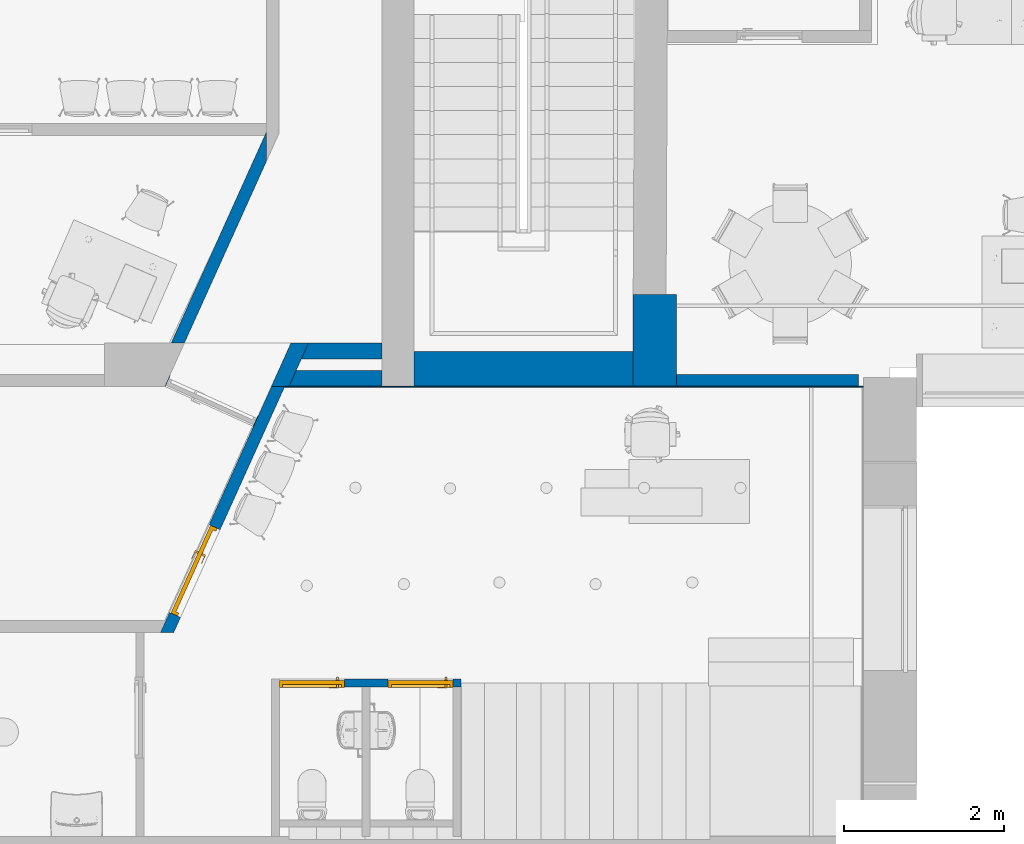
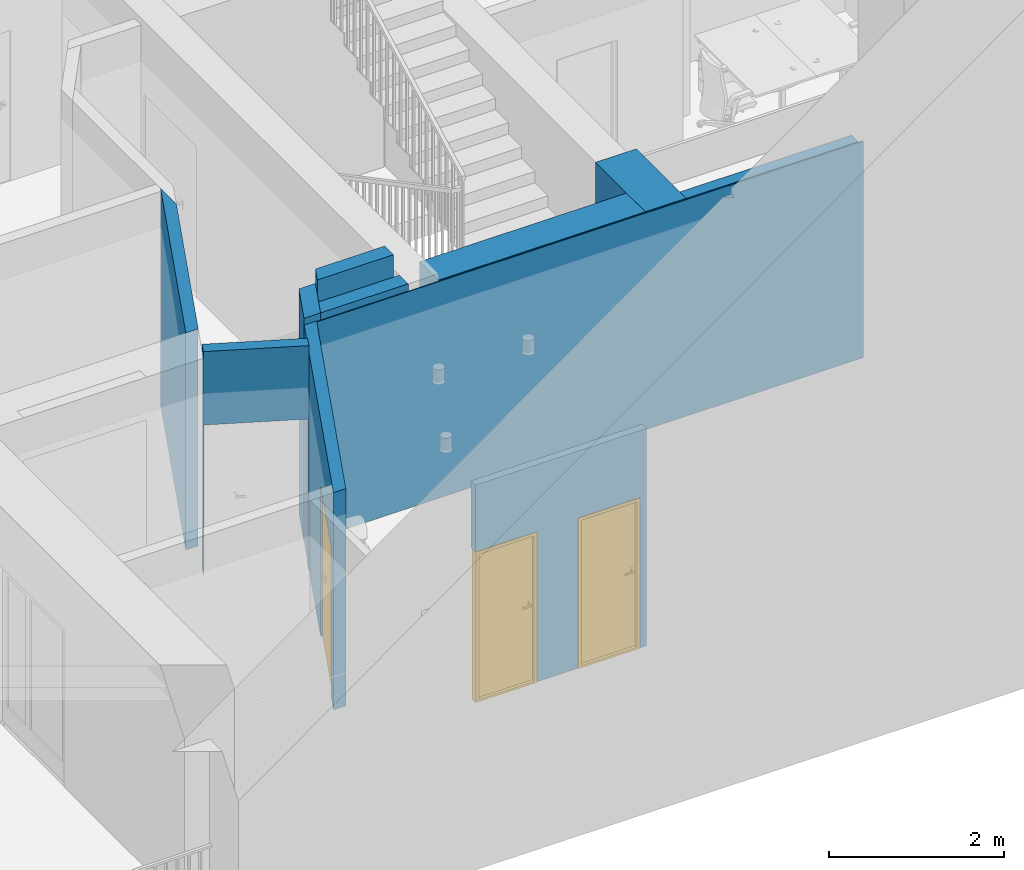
# One storey, part 3 of 25: 11 walls, 3 doors, 4 openings.
"""IFC2X3 building model written with IfcOpenShell, lengths in millimetres."""

from ifc_helpers import new_model, entity, si_unit, converted_unit, derived_unit, direction, frame, frame_2d, origin, place, context, subcontext, project, spatial, polyline, rectangle, outline, extrude, clip, bounded_halfspace, faceted_brep, source, transform, mapped, material, material_list, layer, layer_set, layer_usage, type_object, type_shapes, element, fill, save


model = new_model("IFC2X3")

# Units and contexts
model_context = context("Model", 3, precision=0.01, world=origin(), true_north=direction((6.12303176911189e-17, 1.0)))
context_of_model = context(None, 3, precision=0.01, world=origin(), true_north=direction((6.12303176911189e-17, 1.0)))
body_context = subcontext(model_context, "Body", "Model", "MODEL_VIEW")
ifc_project = project(units=[si_unit("LENGTHUNIT", "METRE", prefix="MILLI"), si_unit("AREAUNIT", "SQUARE_METRE"), si_unit("VOLUMEUNIT", "CUBIC_METRE"), converted_unit("PLANEANGLEUNIT", "DEGREE", entity("IfcRatioMeasure", 0.0174532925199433), si_unit("PLANEANGLEUNIT", "RADIAN"), dimensions=[0, 0, 0, 0, 0, 0, 0]), si_unit("MASSUNIT", "GRAM", prefix="KILO"), derived_unit("MASSDENSITYUNIT", [(si_unit("MASSUNIT", "GRAM", prefix="KILO"), 1), (si_unit("LENGTHUNIT", "METRE"), -3)]), si_unit("TIMEUNIT", "SECOND"), si_unit("FREQUENCYUNIT", "HERTZ"), si_unit("THERMODYNAMICTEMPERATUREUNIT", "DEGREE_CELSIUS"), derived_unit("THERMALTRANSMITTANCEUNIT", [(si_unit("MASSUNIT", "GRAM", prefix="KILO"), 1), (si_unit("THERMODYNAMICTEMPERATUREUNIT", "KELVIN"), -1), (si_unit("TIMEUNIT", "SECOND"), -3)]), derived_unit("VOLUMETRICFLOWRATEUNIT", [(si_unit("LENGTHUNIT", "METRE"), 3), (si_unit("TIMEUNIT", "SECOND"), -1)]), si_unit("ELECTRICCURRENTUNIT", "AMPERE"), si_unit("ELECTRICVOLTAGEUNIT", "VOLT"), si_unit("POWERUNIT", "WATT"), si_unit("FORCEUNIT", "NEWTON", prefix="KILO"), si_unit("ILLUMINANCEUNIT", "LUX"), si_unit("LUMINOUSFLUXUNIT", "LUMEN"), si_unit("LUMINOUSINTENSITYUNIT", "CANDELA"), derived_unit("USERDEFINED", [(si_unit("MASSUNIT", "GRAM", prefix="KILO"), -1), (si_unit("LENGTHUNIT", "METRE"), -2), (si_unit("TIMEUNIT", "SECOND"), 3), (si_unit("LUMINOUSFLUXUNIT", "LUMEN"), 1)]), derived_unit("LINEARVELOCITYUNIT", [(si_unit("LENGTHUNIT", "METRE"), 1), (si_unit("TIMEUNIT", "SECOND"), -1)]), si_unit("PRESSUREUNIT", "PASCAL"), derived_unit("USERDEFINED", [(si_unit("LENGTHUNIT", "METRE"), -2), (si_unit("MASSUNIT", "GRAM", prefix="KILO"), 1), (si_unit("TIMEUNIT", "SECOND"), -2)])], contexts=[model_context, context_of_model])

# Site, building, storey
site_placement = place(None, frame((121442.264707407, 135347.995453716, -1800.0)))
site = spatial("IfcSite", under=ifc_project, at=site_placement, Name="Surface", CompositionType="ELEMENT")
building_placement = place(site_placement, origin())
building = spatial("IfcBuilding", under=site, at=building_placement, CompositionType="ELEMENT")
storey_placement = place(building_placement, frame((0.0, 0.0, 1800.0)))
storey = spatial("IfcBuildingStorey", under=building, at=storey_placement, Name="1 korrus", CompositionType="ELEMENT", Elevation=1800.00000000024)

# Walls
ifc_material_1 = material(Name="__Betoonelement")
ifc_layer_1 = layer(ifc_material_1, 200.0)
ifc_layer_set_1 = layer_set([ifc_layer_1], Name="Basic Wall:20_Betoon")
ifc_layer_usage_1 = layer_usage(ifc_layer_set_1, "AXIS2", "POSITIVE", -100.0)
wall_type_1 = type_object("IfcWallType", Name="Basic Wall:20_Betoon", PredefinedType="STANDARD", material=ifc_layer_set_1)
wall_1_placement = place(storey_placement, frame((-109693.017140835, -127100.934130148, 0.0), z_axis=(0.0, 0.0, 1.0), x_axis=(-1.0, 0.0, 0.0)))
element("IfcWallStandardCase", 1, at=wall_1_placement, inside=storey, type_object=wall_type_1, material=ifc_layer_usage_1, Name="Basic Wall:20_Betoon", ObjectType="Basic Wall:20_Betoon:397", context=body_context, shape_type="SweptSolid", body=[
    extrude(outline(polyline([(913.958276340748, -100.0), (1004.2397972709, 100.0), (0.0, 100.0), (0.0, -100.0), (913.958276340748, -100.0)])), origin(), (0.0, 0.0, 1.0), 3325.0),
])
ifc_layer_usage_2 = layer_usage(ifc_layer_set_1, "AXIS2", "POSITIVE", -100.0)
wall_2_placement = place(storey_placement, frame((-110698.119494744, -126959.791000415, 0.0), z_axis=(0.0, 0.0, 1.0), x_axis=(-0.411431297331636, -0.911440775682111, 0.0)))
element("IfcWallStandardCase", 2, at=wall_2_placement, inside=storey, type_object=wall_type_1, material=ifc_layer_usage_2, Name="Basic Wall:20_Betoon", ObjectType="Basic Wall:20_Betoon:397", context=body_context, shape_type="SweptSolid", body=[
    extrude(outline(polyline([(682.65444600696, -100.0), (592.372925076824, 100.0), (372.940126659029, 100.0), (219.432798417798, 100.0), (0.0, 100.0), (90.281520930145, -100.0), (682.65444600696, -100.0)])), origin(), (0.0, 0.0, 1.0), 3125.0),
])
ifc_layer_usage_3 = layer_usage(ifc_layer_set_1, "AXIS2", "POSITIVE", -100.0)
wall_3_placement = place(storey_placement, frame((-110850.696178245, -127440.846968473, 0.0)))
element("IfcWallStandardCase", 3, at=wall_3_placement, inside=storey, type_object=wall_type_1, material=ifc_layer_usage_3, Name="Basic Wall:20_Betoon", ObjectType="Basic Wall:20_Betoon:397", context=body_context, shape_type="SweptSolid", body=[
    extrude(outline(polyline([(1157.67903740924, -100.0), (1157.67903740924, -95.1177261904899), (1157.67903740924, 100.0), (90.2815209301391, 100.0), (0.0, -100.0), (1157.67903740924, -100.0)])), origin(), (0.0, 0.0, 1.0), 3125.0),
])
ifc_layer_2 = layer(ifc_material_1, 430.0)
ifc_layer_set_2 = layer_set([ifc_layer_2], Name="Basic Wall:43_Betoon 2")
ifc_layer_usage_4 = layer_usage(ifc_layer_set_2, "AXIS2", "POSITIVE", -215.0)
wall_type_2 = type_object("IfcWallType", Name="Basic Wall:43_Betoon 2", PredefinedType="STANDARD", material=ifc_layer_set_2)
wall_4_placement = place(storey_placement, frame((-109293.147985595, -127321.208007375, 0.0), z_axis=(0.0, 0.0, 1.0), x_axis=(0.999999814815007, -0.00060858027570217, 0.0)))
element("IfcWallStandardCase", 4, at=wall_4_placement, inside=storey, type_object=wall_type_2, material=ifc_layer_usage_4, Name="Basic Wall:43_Betoon 2", ObjectType="Basic Wall:43_Betoon 2", context=body_context, shape_type="Clipping", body=[
    clip(extrude(outline(polyline([(2732.49030172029, -215.0), (2732.22861215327, 215.0), (0.0, 215.0), (0.261689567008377, -215.0), (2732.49030172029, -215.0)])), origin(), (0.0, 0.0, 1.0), 3032.0), bounded_halfspace(frame((0.261689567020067, -215.0, 3032.0), z_axis=(0.0, 0.0, -1.0), x_axis=(0.00060858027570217, -0.999999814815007, 0.0)), True, frame((0.261689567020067, -215.0, 3032.0)), polyline([(0.0, 0.0), (2732.22861215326, 0.0), (2732.07098153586, 259.013633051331), (-0.173073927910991, 284.389591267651), (-0.0361366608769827, 59.3786154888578), (0.0, 0.0)]))),
])
ifc_layer_3 = layer(ifc_material_1, 540.0)
ifc_layer_set_3 = layer_set([ifc_layer_3], Name="Basic Wall:54_Betoon 2")
ifc_layer_usage_5 = layer_usage(ifc_layer_set_3, "AXIS2", "POSITIVE", -270.0)
wall_type_3 = type_object("IfcWallType", Name="Basic Wall:54_Betoon 2", PredefinedType="STANDARD", material=ifc_layer_set_3)
wall_5_placement = place(storey_placement, frame((-106290.78903465, -127538.199540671, 0.0), z_axis=(0.0, 0.0, 1.0), x_axis=(0.0, 1.0, 0.0)))
element("IfcWallStandardCase", 5, at=wall_5_placement, inside=storey, type_object=wall_type_3, material=ifc_layer_usage_5, Name="Basic Wall:54_Betoon 2", ObjectType="Basic Wall:54_Betoon 2", context=body_context, shape_type="Clipping", body=[
    clip(extrude(outline(polyline([(1139.79142627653, -270.0), (1139.79142627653, 270.0), (430.328713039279, 270.0), (0.328633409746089, 270.0), (0.0, -270.0), (1139.79142627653, -270.0)])), origin(), (0.0, 0.0, 1.0), 3032.0), bounded_halfspace(frame((0.0, -270.0, 3032.0), z_axis=(0.0, 0.0, -1.0), x_axis=(-1.0, 0.0, 0.0)), True, frame((0.0, -270.0, 3032.0)), polyline([(0.0, 0.0), (1139.79142627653, 0.0), (1139.79142627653, 435.746439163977), (258.467599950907, 451.611296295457), (0.277670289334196, 456.259016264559), (0.0, 0.0)]))),
])
ifc_material_2 = material(Name="Plaster")
ifc_layer_4 = layer(ifc_material_2, 10.0)
ifc_material_3 = material(Name="EST. Müüritis. Väikeplokk. Kergkruusplokk")
ifc_layer_5 = layer(ifc_material_3, 130.0)
ifc_layer_6 = layer(ifc_material_2, 10.0)
ifc_layer_set_4 = layer_set([ifc_layer_4, ifc_layer_5, ifc_layer_6], Name="Basic Wall:15_FIBO")
ifc_layer_usage_6 = layer_usage(ifc_layer_set_4, "AXIS2", "NEGATIVE", 75.0)
wall_type_4 = type_object("IfcWallType", Name="Basic Wall:15_FIBO", PredefinedType="STANDARD", material=ifc_layer_set_4)
wall_6_placement = place(storey_placement, frame((-111059.85882318, -124392.833389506, 0.0), z_axis=(0.0, 0.0, 1.0), x_axis=(-0.411431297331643, -0.911440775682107, 0.0)))
element("IfcWallStandardCase", 6, at=wall_6_placement, inside=storey, type_object=wall_type_4, material=ifc_layer_usage_6, Name="Basic Wall:15_FIBO", ObjectType="Basic Wall:15_FIBO", context=body_context, shape_type="Clipping", body=[
    clip(extrude(outline(polyline([(2895.78547556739, -75.0), (2828.07433486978, 75.0), (332.293914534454, 75.0), (0.0, -75.0), (57.9220545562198, -75.0), (2895.78547556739, -75.0)])), origin(), (0.0, 0.0, 1.0), 3032.0), bounded_halfspace(frame((0.0, -75.0, 3032.0), z_axis=(0.0, 0.0, -1.0), x_axis=(0.911440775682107, 0.411431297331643, 0.0)), True, frame((0.0, -75.0, 3032.0)), polyline([(0.0, 0.0), (57.9220545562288, 0.0), (2895.7854755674, 0.0), (2828.07433486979, 150.0), (332.293914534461, 150.0), (0.0, 0.0)]))),
])
ifc_layer_usage_7 = layer_usage(ifc_layer_set_4, "AXIS2", "POSITIVE", -75.0)
wall_7_placement = place(storey_placement, frame((-106020.78903465, -127467.459818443, 0.0)))
element("IfcWallStandardCase", 7, at=wall_7_placement, inside=storey, type_object=wall_type_4, material=ifc_layer_usage_7, Name="Basic Wall:15_FIBO", ObjectType="Basic Wall:15_FIBO", context=body_context, shape_type="Clipping", body=[
    clip(extrude(rectangle(XDim=2270.0, YDim=150.000000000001, at=frame_2d((1135.0, 0.0), x_axis=(-1.0, 0.0))), origin(), (0.0, 0.0, 1.0), 3032.0), bounded_halfspace(frame((0.0, -75.0, 3032.0), z_axis=(0.0, 0.0, -1.0), x_axis=(0.0, -1.0, 0.0)), True, frame((0.0, -75.0, 3032.0)), polyline([(0.0, 0.0), (2270.0, 0.0), (2270.0, 150.0), (0.0, 150.0), (0.0, 0.0)]))),
])

# Wall, opening, door
ifc_layer_usage_8 = layer_usage(ifc_layer_set_4, "AXIS2", "POSITIVE", -75.0)
wall_8_placement = place(storey_placement, frame((-110971.564053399, -127509.989621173, 0.0), z_axis=(0.0, 0.0, 1.0), x_axis=(-0.411431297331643, -0.911440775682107, 0.0)))
wall_8 = element("IfcWallStandardCase", 8, at=wall_8_placement, inside=storey, type_object=wall_type_4, material=ifc_layer_usage_8, Name="Basic Wall:15_FIBO", ObjectType="Basic Wall:15_FIBO", context=body_context, shape_type="Clipping", body=[
    clip(extrude(outline(polyline([(67.7111406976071, -75.0), (3266.62178826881, -75.0), (3431.19638708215, -75.0), (3363.48524638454, 75.0), (0.0, 75.0), (67.7111406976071, -75.0)])), origin(), (0.0, 0.0, 1.0), 3032.0), bounded_halfspace(frame((67.711140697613, -75.0, 3032.0), z_axis=(0.0, 0.0, -1.0), x_axis=(0.911440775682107, 0.411431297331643, 0.0)), True, frame((67.711140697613, -75.0, 3032.0)), polyline([(0.0, 0.0), (3198.9106475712, 0.0), (3363.48524638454, 0.0), (3295.77410568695, 150.0), (-67.7111406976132, 150.0), (0.0, 0.0)]))),
])
opening_1_placement = place(wall_8_placement, frame((3159.58659514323, 75.0, 0.0)))
opening_1 = element("IfcOpeningElement", 9, at=opening_1_placement, cuts=wall_8, Name="sma_D02:1200 x 2100mm SU-11 Tuletokke:1", ObjectType="Opening", context=body_context, shape_type="SweptSolid", body=[
    extrude(rectangle(XDim=2099.99999999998, YDim=1200.0, at=frame_2d((1049.99999999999, 600.0), x_axis=(1.0, 0.0))), frame((0.0, 0.0, 0.0), z_axis=(0.0, -1.0, 0.0), x_axis=(0.0, 0.0, 1.0)), (0.0, 0.0, 1.0), 150.0),
])
ifc_material_4 = material(Name="Metal - Aluminium")
door_style_1 = type_object("IfcDoorStyle", Name="1200 x 2100mm SU-11 Tuletokke", ConstructionType="NOTDEFINED", OperationType="NOTDEFINED", ParameterTakesPrecedence=False, Sizeable=False, material=ifc_material_4)
shared_shape_1 = source(origin(), body_context, "Body", "Brep", [
    faceted_brep([(745.260051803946, 40.0, 1100.0), (650.260051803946, 40.0, 1100.0), (650.260051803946, 35.0, 1100.0), (770.260051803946, 35.0, 1100.0), (770.260051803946, 78.0, 1100.0), (745.260051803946, 78.0, 1100.0), (745.260051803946, 40.0, 1075.0), (745.260051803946, 78.0, 1075.0), (770.260051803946, 78.0, 1075.0), (770.260051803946, 35.0, 1075.0), (650.260051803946, 35.0, 1075.0), (650.260051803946, 40.0, 1075.0)], [[[0, 1, 2, 3, 4, 5]], [[6, 7, 8, 9, 10, 11]], [[5, 7, 6, 0]], [[4, 8, 7, 5]], [[3, 9, 8, 4]], [[2, 10, 9, 3]], [[1, 11, 10, 2]], [[0, 6, 11, 1]]]),
    faceted_brep([(732.760051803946, 78.0, 1125.0), (782.760051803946, 78.0, 1125.0), (782.760051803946, 80.0, 1125.0), (732.760051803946, 80.0, 1125.0), (732.760051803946, 78.0, 1005.0), (732.760051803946, 80.0, 1005.0), (782.760051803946, 80.0, 1005.0), (782.760051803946, 78.0, 1005.0)], [[[0, 1, 2, 3]], [[4, 5, 6, 7]], [[3, 5, 4, 0]], [[2, 6, 5, 3]], [[1, 7, 6, 2]], [[0, 4, 7, 1]]]),
    faceted_brep([(745.260051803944, 170.432966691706, 1100.0), (745.260051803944, 132.432966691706, 1100.0), (770.260051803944, 132.432966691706, 1100.0), (770.260051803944, 175.432966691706, 1100.0), (650.260051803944, 175.432966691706, 1100.0), (650.260051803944, 170.432966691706, 1100.0), (745.260051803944, 170.432966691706, 1075.0), (650.260051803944, 170.432966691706, 1075.0), (650.260051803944, 175.432966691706, 1075.0), (770.260051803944, 175.432966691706, 1075.0), (770.260051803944, 132.432966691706, 1075.0), (745.260051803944, 132.432966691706, 1075.0)], [[[0, 1, 2, 3, 4, 5]], [[6, 7, 8, 9, 10, 11]], [[1, 0, 6, 11]], [[2, 1, 11, 10]], [[3, 2, 10, 9]], [[4, 3, 9, 8]], [[5, 4, 8, 7]], [[0, 5, 7, 6]]]),
    faceted_brep([(732.760051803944, 132.432966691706, 1125.0), (732.760051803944, 130.432966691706, 1125.0), (782.760051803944, 130.432966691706, 1125.0), (782.760051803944, 132.432966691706, 1125.0), (732.760051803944, 132.432966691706, 1005.0), (782.760051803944, 132.432966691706, 1005.0), (782.760051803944, 130.432966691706, 1005.0), (732.760051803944, 130.432966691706, 1005.0)], [[[0, 1, 2, 3]], [[4, 5, 6, 7]], [[1, 0, 4, 7]], [[2, 1, 7, 6]], [[3, 2, 6, 5]], [[0, 3, 5, 4]]]),
    faceted_brep([(-67.2399481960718, 40.4329666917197, 0.0), (-67.2399481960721, 130.43296669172, 0.0), (-42.2399481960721, 130.43296669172, 0.0), (-42.239948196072, 80.4329666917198, 0.0), (-27.2399481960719, 80.4329666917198, 0.0), (-27.2399481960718, 40.4329666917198, 0.0), (-27.2399481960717, 40.4329666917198, 2060.0), (1092.76005180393, 40.4329666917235, 2060.0), (1092.76005180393, 40.4329666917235, 0.0), (1132.76005180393, 40.4329666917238, 0.0), (1132.76005180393, 40.4329666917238, 2100.0), (-67.2399481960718, 40.4329666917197, 2100.0), (-27.2399481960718, 80.4329666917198, 2060.0), (-42.2399481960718, 80.4329666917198, 2075.0), (1107.76005180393, 80.4329666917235, 2075.0), (1107.76005180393, 80.4329666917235, 0.0), (1092.76005180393, 80.4329666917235, 0.0), (1092.76005180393, 80.4329666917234, 2060.0), (-42.239948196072, 130.43296669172, 2075.0), (-67.2399481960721, 130.43296669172, 2100.0), (1132.76005180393, 130.432966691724, 2100.0), (1132.76005180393, 130.432966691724, 0.0), (1107.76005180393, 130.432966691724, 0.0), (1107.76005180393, 130.432966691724, 2075.0)], [[[0, 1, 2, 3, 4, 5]], [[5, 6, 7, 8, 9, 10, 11, 0]], [[4, 12, 6, 5]], [[3, 13, 14, 15, 16, 17, 12, 4]], [[2, 18, 13, 3]], [[1, 19, 20, 21, 22, 23, 18, 2]], [[0, 11, 19, 1]], [[10, 9, 21, 20]], [[9, 8, 16, 15, 22, 21]], [[17, 16, 8, 7]], [[23, 22, 15, 14]], [[12, 17, 7, 6]], [[18, 23, 14, 13]], [[11, 10, 20, 19]]]),
    faceted_brep([(1107.76005180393, 80.4329666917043, 20.0), (1107.76005180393, 80.4329666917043, 2075.0), (832.760051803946, 80.4329666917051, 2075.0), (832.760051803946, 80.4329666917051, 20.0), (1107.76005180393, 130.432966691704, 20.0), (832.760051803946, 130.432966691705, 20.0), (832.760051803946, 130.432966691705, 2075.0), (1107.76005180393, 130.432966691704, 2075.0)], [[[0, 1, 2, 3]], [[4, 5, 6, 7]], [[3, 5, 4, 0]], [[2, 6, 5, 3]], [[1, 7, 6, 2]], [[0, 4, 7, 1]]]),
    faceted_brep([(832.760051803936, 80.4329666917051, 2075.0), (-42.2399481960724, 80.4329666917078, 2075.0), (-42.2399481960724, 80.4329666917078, 20.0), (832.760051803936, 80.4329666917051, 20.0), (832.760051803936, 130.432966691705, 2075.0), (832.760051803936, 130.432966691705, 20.0), (-42.2399481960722, 130.432966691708, 20.0), (-42.2399481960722, 130.432966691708, 2075.0)], [[[0, 1, 2, 3]], [[4, 5, 6, 7]], [[3, 5, 4, 0]], [[2, 6, 5, 3]], [[1, 7, 6, 2]], [[0, 4, 7, 1]]]),
])
type_shapes(door_style_1, [shared_shape_1])
door_1_placement = place(opening_1_placement, frame((-67.2399481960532, 0.0, 0.0), z_axis=(0.0, 0.0, 1.0), x_axis=(-1.0, 0.0, 0.0)))
door_1 = element("IfcDoor", 10, at=door_1_placement, inside=storey, type_object=door_style_1, material=ifc_material_4, Name="sma_D02:1200 x 2100mm SU-11 Tuletokke", ObjectType="1200 x 2100mm SU-11 Tuletokke", OverallHeight=2099.99999999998, OverallWidth=1200.0, context=body_context, shape_type="MappedRepresentation", body=[
    mapped(shared_shape_1, transform((0.0, 0.0, 0.0), scale=1.0)),
])
fill(opening_1, door_1)

# Wall, opening
ifc_layer_usage_9 = layer_usage(ifc_layer_set_4, "AXIS2", "POSITIVE", -75.0)
wall_9_placement = place(storey_placement, frame((-112367.790791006, -127472.576071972, 0.0), z_axis=(0.0, 0.0, 1.0), x_axis=(0.911440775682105, -0.411431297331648, 0.0)))
wall_9 = element("IfcWallStandardCase", 11, at=wall_9_placement, inside=storey, type_object=wall_type_4, material=ifc_layer_usage_9, Name="Basic Wall:15_FIBO", ObjectType="Basic Wall:15_FIBO", context=body_context, shape_type="SweptSolid", body=[
    extrude(rectangle(XDim=1212.97108583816, YDim=149.999999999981, at=frame_2d((606.485542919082, 4.2632564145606e-14), x_axis=(-1.0, 0.0))), origin(), (0.0, 0.0, 1.0), 3125.0),
])
opening_2_placement = place(wall_9_placement, frame((1206.48554291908, 75.0, 0.0)))
element("IfcOpeningElement", 12, at=opening_2_placement, cuts=wall_9, Name="sma_D02:1200 x 2100mm SU-7 Liigendiga siseuks:1", ObjectType="Opening", context=body_context, shape_type="SweptSolid", body=[
    extrude(rectangle(XDim=2099.99999999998, YDim=1200.0, at=frame_2d((1049.99999999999, 600.0), x_axis=(1.0, 0.0))), frame((0.0, 0.0, 0.0), z_axis=(0.0, -1.0, 0.0), x_axis=(0.0, 0.0, 1.0)), (0.0, 0.0, 1.0), 150.0),
])

# Wall, openings, doors
ifc_layer_7 = layer(ifc_material_2, 5.0)
ifc_material_5 = material(Name="CMU, Lightweight")
ifc_layer_8 = layer(ifc_material_5, 90.0)
ifc_layer_9 = layer(ifc_material_2, 5.0)
ifc_layer_set_5 = layer_set([ifc_layer_7, ifc_layer_8, ifc_layer_9], Name="Basic Wall:10_FIBO + 2xKROHV")
ifc_layer_usage_10 = layer_usage(ifc_layer_set_5, "AXIS2", "NEGATIVE", 50.0)
wall_type_5 = type_object("IfcWallType", Name="Basic Wall:10_FIBO + 2xKROHV", PredefinedType="STANDARD", material=ifc_layer_set_5)
wall_10_placement = place(storey_placement, frame((-110969.001080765, -131235.927165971, 0.0)))
wall_10 = element("IfcWallStandardCase", 13, at=wall_10_placement, inside=storey, type_object=wall_type_5, material=ifc_layer_usage_10, Name="Basic Wall:10_FIBO + 2xKROHV", ObjectType="Basic Wall:10_FIBO + 2xKROHV", context=body_context, shape_type="Clipping", body=[
    clip(extrude(rectangle(XDim=2260.0131168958, YDim=100.000000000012, at=frame_2d((1130.0065584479, 0.0), x_axis=(-1.0, 0.0))), origin(), (0.0, 0.0, 1.0), 3032.0), bounded_halfspace(frame((2260.0131168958, -48.1727669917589, 3032.0), z_axis=(0.0, 0.0, -1.0), x_axis=(0.0, -1.0, 0.0)), True, frame((2260.0131168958, -48.1727669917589, 3032.0)), polyline([(0.0, 0.0), (0.0, 98.1727669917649), (-2260.0131168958, 98.1727669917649), (-2260.0131168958, 0.0), (-1792.12382775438, 0.0), (0.0, 0.0)]))),
])
opening_3_placement = place(wall_10_placement, frame((1355.01311689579, -50.0, 0.0)))
opening_3 = element("IfcOpeningElement", 14, at=opening_3_placement, cuts=wall_10, Name="sma_D01:810 x 2110_SU-04 Siseuks:1", ObjectType="Opening", context=body_context, shape_type="SweptSolid", body=[
    extrude(rectangle(XDim=2099.99999999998, YDim=810.0, at=frame_2d((1049.99999999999, 405.000000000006), x_axis=(1.0, 0.0))), frame((0.0, 0.0, 0.0), z_axis=(0.0, 1.0, 0.0), x_axis=(0.0, 0.0, 1.0)), (0.0, 0.0, 1.0), 100.0),
])
opening_4_placement = place(wall_10_placement, frame((0.0, -50.0, 0.0)))
opening_4 = element("IfcOpeningElement", 15, at=opening_4_placement, cuts=wall_10, Name="sma_D01:810 x 2110_SU-04 Siseuks:1", ObjectType="Opening", context=body_context, shape_type="SweptSolid", body=[
    extrude(rectangle(XDim=2099.99999999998, YDim=810.0, at=frame_2d((1049.99999999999, 405.000000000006), x_axis=(1.0, 0.0))), frame((0.0, 0.0, 0.0), z_axis=(0.0, 1.0, 0.0), x_axis=(0.0, 0.0, 1.0)), (0.0, 0.0, 1.0), 100.0),
])
ifc_material_6 = material(Name="Door - Panel_valge")
ifc_material_list_1 = material_list([ifc_material_4, ifc_material_6])
ifc_material_list_2 = material_list([ifc_material_4, ifc_material_6])
door_style_2 = type_object("IfcDoorStyle", Name="810 x 2110_SU-04 Siseuks", ConstructionType="NOTDEFINED", OperationType="SINGLE_SWING_LEFT", ParameterTakesPrecedence=False, Sizeable=False, material=ifc_material_list_2)
shared_shape_2 = source(origin(), body_context, "Body", "Brep", [
    faceted_brep([(710.0, -10.0, 1112.5), (615.0, -10.0, 1112.5), (615.0, -15.0, 1112.5), (735.0, -15.0, 1112.5), (735.0, 28.0, 1112.5), (710.0, 28.0, 1112.5), (710.0, -10.0, 1087.5), (710.0, 28.0, 1087.5), (735.0, 28.0, 1087.5), (735.0, -15.0, 1087.5), (615.0, -15.0, 1087.5), (615.0, -10.0, 1087.5)], [[[0, 1, 2, 3, 4, 5]], [[6, 7, 8, 9, 10, 11]], [[5, 7, 6, 0]], [[4, 8, 7, 5]], [[3, 9, 8, 4]], [[2, 10, 9, 3]], [[1, 11, 10, 2]], [[0, 6, 11, 1]]]),
    faceted_brep([(697.500000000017, 28.0, 1137.5), (747.500000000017, 28.0, 1137.5), (747.500000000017, 30.0, 1137.5), (697.500000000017, 30.0, 1137.5), (697.500000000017, 28.0, 1017.5), (697.500000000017, 30.0, 1017.5), (747.500000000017, 30.0, 1017.5), (747.500000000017, 28.0, 1017.5)], [[[0, 1, 2, 3]], [[4, 5, 6, 7]], [[3, 5, 4, 0]], [[2, 6, 5, 3]], [[1, 7, 6, 2]], [[0, 4, 7, 1]]]),
    faceted_brep([(710.0, 120.0, 1112.5), (710.0, 82.0, 1112.5), (735.0, 82.0, 1112.5), (735.0, 125.0, 1112.5), (615.0, 125.0, 1112.5), (615.0, 120.0, 1112.5), (710.0, 120.0, 1087.5), (615.0, 120.0, 1087.5), (615.0, 125.0, 1087.5), (735.0, 125.0, 1087.5), (735.0, 82.0, 1087.5), (710.0, 82.0, 1087.5)], [[[0, 1, 2, 3, 4, 5]], [[6, 7, 8, 9, 10, 11]], [[1, 0, 6, 11]], [[2, 1, 11, 10]], [[3, 2, 10, 9]], [[4, 3, 9, 8]], [[5, 4, 8, 7]], [[0, 5, 7, 6]]]),
    faceted_brep([(697.500000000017, 82.0, 1137.5), (697.500000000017, 80.0, 1137.5), (747.500000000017, 80.0, 1137.5), (747.500000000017, 82.0, 1137.5), (697.500000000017, 82.0, 1017.5), (747.500000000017, 82.0, 1017.5), (747.500000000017, 80.0, 1017.5), (697.500000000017, 80.0, 1017.5)], [[[0, 1, 2, 3]], [[4, 5, 6, 7]], [[1, 0, 4, 7]], [[2, 1, 7, 6]], [[3, 2, 6, 5]], [[0, 3, 5, 4]]]),
    faceted_brep([(0.0, -10.0, 0.0), (0.0, 80.0, 0.0), (25.0, 80.0, 0.0), (25.0, 30.0, 0.0), (40.0, 30.0, 0.0), (40.0, -10.0, 0.0), (40.0, -10.0, 2060.0), (770.0, -10.0, 2060.0), (770.0, -10.0, 0.0), (810.0, -10.0, 0.0), (810.0, -10.0, 2100.0), (0.0, -10.0, 2100.0), (40.0, 30.0, 2060.0), (25.0, 30.0, 2075.0), (785.0, 30.0, 2075.0), (785.0, 30.0, 0.0), (770.0, 30.0, 0.0), (770.0, 30.0, 2060.0), (25.0, 80.0, 2075.0), (0.0, 80.0, 2100.0), (810.0, 80.0, 2100.0), (810.0, 80.0, 0.0), (785.0, 80.0, 0.0), (785.0, 80.0, 2075.0)], [[[0, 1, 2, 3, 4, 5]], [[5, 6, 7, 8, 9, 10, 11, 0]], [[4, 12, 6, 5]], [[3, 13, 14, 15, 16, 17, 12, 4]], [[2, 18, 13, 3]], [[1, 19, 20, 21, 22, 23, 18, 2]], [[0, 11, 19, 1]], [[10, 9, 21, 20]], [[9, 8, 16, 15, 22, 21]], [[17, 16, 8, 7]], [[23, 22, 15, 14]], [[12, 17, 7, 6]], [[18, 23, 14, 13]], [[11, 10, 20, 19]]]),
    faceted_brep([(785.0, 30.0, 2075.0), (25.0, 30.0, 2075.0), (25.0, 30.0, 20.0), (785.0, 30.0, 20.0), (785.0, 80.0, 2075.0), (785.0, 80.0, 20.0), (25.0, 80.0, 20.0), (25.0, 80.0, 2075.0)], [[[0, 1, 2, 3]], [[4, 5, 6, 7]], [[3, 5, 4, 0]], [[2, 6, 5, 3]], [[1, 7, 6, 2]], [[0, 4, 7, 1]]]),
    faceted_brep([(40.0, -10.0, 30.0), (40.0, 30.0, 30.0), (40.0, 30.0, 20.0), (40.0, 30.0, 0.0), (40.0, -10.0, 0.0), (770.0, -10.0, 30.0), (770.0, -10.0, 0.0), (770.0, 30.0, 0.0), (770.0, 30.0, 20.0), (770.0, 30.0, 30.0), (25.0, 30.0, 0.0), (25.0, 80.0, 0.0), (785.0, 80.0, 0.0), (785.0, 30.0, 0.0), (25.0, 80.0, 20.0), (25.0, 30.0, 20.0), (785.0, 80.0, 20.0), (785.0, 30.0, 20.0)], [[[0, 1, 2, 3, 4]], [[5, 6, 7, 8, 9]], [[4, 6, 5, 0]], [[3, 10, 11, 12, 13, 7, 6, 4]], [[9, 8, 2, 1]], [[0, 5, 9, 1]], [[14, 11, 10, 15]], [[16, 17, 13, 12]], [[15, 2, 8, 17, 16, 14]], [[10, 3, 2, 15]], [[14, 16, 12, 11]], [[17, 8, 7, 13]]]),
])
type_shapes(door_style_2, [shared_shape_2])
door_2_placement = place(opening_3_placement, origin())
door_2 = element("IfcDoor", 16, at=door_2_placement, inside=storey, type_object=door_style_2, material=ifc_material_list_1, Name="sma_D01:810 x 2110_SU-04 Siseuks", ObjectType="810 x 2110_SU-04 Siseuks", OverallHeight=2099.99999999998, OverallWidth=810.000000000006, context=body_context, shape_type="MappedRepresentation", body=[
    mapped(shared_shape_2, transform((0.0, 0.0, 0.0), scale=1.0)),
])
fill(opening_3, door_2)
ifc_material_list_3 = material_list([ifc_material_4, ifc_material_6])
door_3_placement = place(opening_4_placement, origin())
door_3 = element("IfcDoor", 17, at=door_3_placement, inside=storey, type_object=door_style_2, material=ifc_material_list_3, Name="sma_D01:810 x 2110_SU-04 Siseuks", ObjectType="810 x 2110_SU-04 Siseuks", OverallHeight=2099.99999999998, OverallWidth=810.000000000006, context=body_context, shape_type="MappedRepresentation", body=[
    mapped(shared_shape_2, transform((0.0, 0.0, 0.0), scale=1.0)),
])
fill(opening_4, door_3)

# Wall
ifc_material_7 = material(Name="EST. Ehitusplaat. Kipsplaat")
ifc_layer_10 = layer(ifc_material_7, 12.5)
ifc_layer_set_6 = layer_set([ifc_layer_10], Name="Basic Wall:Kips plaat_tagasein")
ifc_layer_usage_11 = layer_usage(ifc_layer_set_6, "AXIS2", "POSITIVE", -6.25)
wall_type_6 = type_object("IfcWallType", Name="Basic Wall:Kips plaat_tagasein", PredefinedType="STANDARD", material=ifc_layer_set_6)
wall_11_placement = place(storey_placement, frame((-110908.848590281, -127547.096968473, 0.0)))
element("IfcWallStandardCase", 18, at=wall_11_placement, inside=storey, type_object=wall_type_6, material=ifc_layer_usage_11, Name="Basic Wall:Kips plaat_tagasein", ObjectType="Basic Wall:Kips plaat_tagasein", context=body_context, shape_type="SweptSolid", body=[
    extrude(outline(polyline([(7218.37870576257, -6.2500000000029), (7218.37870576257, 6.25000000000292), (5.64259505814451, 6.25000000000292), (0.0, -6.25000000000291), (7205.87870576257, -6.25000000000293), (7218.37870576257, -6.2500000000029)])), origin(), (0.0, 0.0, 1.0), 3025.0),
])

save(model, "model.ifc")
